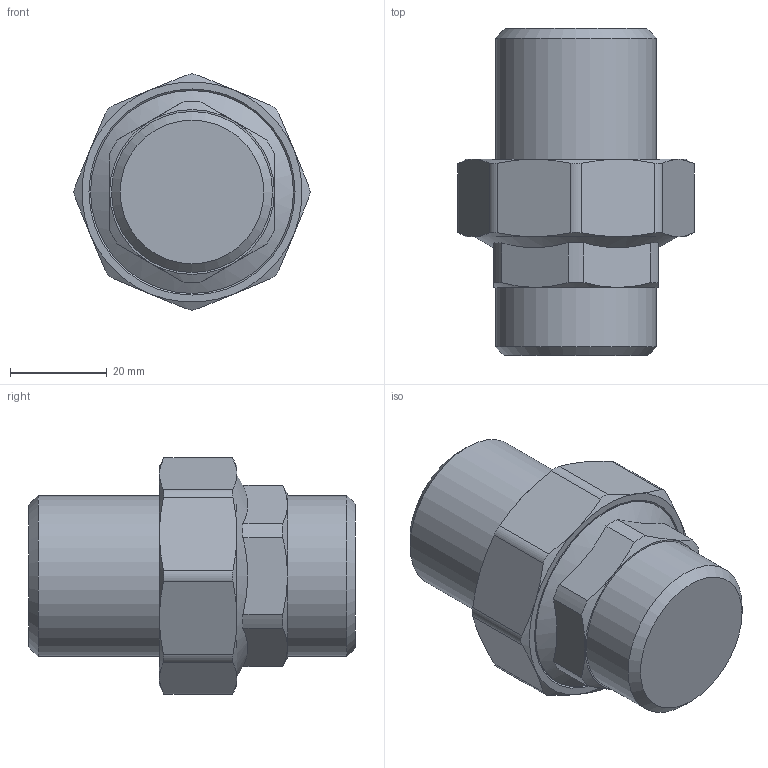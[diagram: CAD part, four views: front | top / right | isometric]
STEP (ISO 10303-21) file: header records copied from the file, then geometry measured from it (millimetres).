
FILE_DESCRIPTION(('STEP AP203'), '1');
FILE_NAME('覆.302612.027.000 捘 - VTr.728.N.0006', '2024-07-19T07:23:11', ('Boss'), (''), 'C3D Converter', 'C3D Toolkit', '');
FILE_SCHEMA(('CONFIG_CONTROL_DESIGN'));
Length unit declared in the file: millimetre
Products named in the file (1): ВР.302612.027.000 СБ
Bounding box: 48.75 x 67.46 x 48.75 mm (x, y, z)
Volume: 73132.8 mm3; surface area: 11563.1 mm2
Topology: 1 solids, 1 shells, 65 faces, 150 edges, 91 vertices
Faces by surface type: cone 27, plane 20, cylinder 18
Full cylindrical faces by diameter (mm): 33.249 x2, 34 x1, 41.91 x1
Entity records: 3569 total; most frequent: CARTESIAN_POINT 2216, ORIENTED_EDGE 280, DIRECTION 249, EDGE_CURVE 140, AXIS2_PLACEMENT_3D 110, VERTEX_POINT 90, EDGE_LOOP 76, B_SPLINE_CURVE_WITH_KNOTS 66
